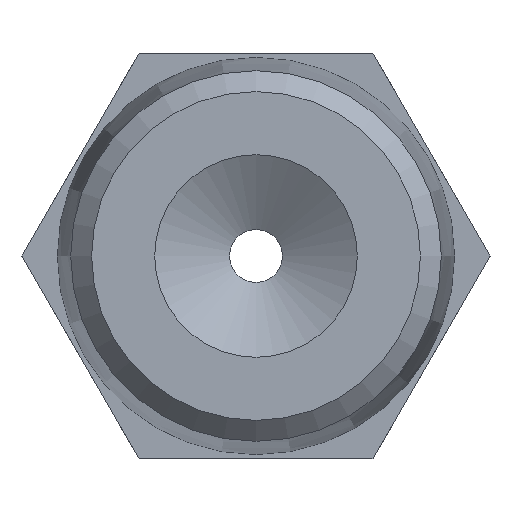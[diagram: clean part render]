
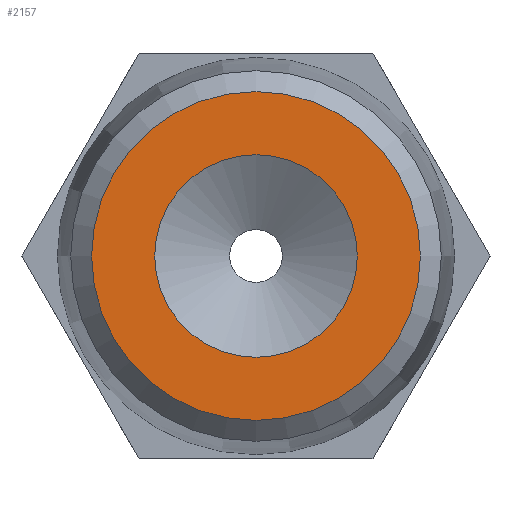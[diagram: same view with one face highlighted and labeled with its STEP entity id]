
A CAD part, front view. The second image highlights one B-rep face of the part: STEP entity #2157.
In plain terms, the highlighted planar face has unit normal (0, -1, 0).
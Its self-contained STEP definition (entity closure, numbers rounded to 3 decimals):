
#143=CARTESIAN_POINT('',(2.5,0.,0.0));
#144=VERTEX_POINT('',#143);
#145=CARTESIAN_POINT('',(0.,0.,0.0));
#146=DIRECTION('',(0.0,1.0,0.0));
#147=DIRECTION('',(1.0,0.0,0.0));
#148=AXIS2_PLACEMENT_3D('',#145,#146,#147);
#149=CIRCLE('',#148,2.5);
#150=EDGE_CURVE('',#144,#144,#149,.T.);
#2131=CARTESIAN_POINT('',(4.056,0.0,0.0));
#2132=VERTEX_POINT('',#2131);
#2133=CARTESIAN_POINT('',(0.,0.,0.0));
#2134=DIRECTION('',(0.0,-1.0,0.0));
#2135=DIRECTION('',(1.0,0.0,0.0));
#2136=AXIS2_PLACEMENT_3D('',#2133,#2134,#2135);
#2137=CIRCLE('',#2136,4.056);
#2138=EDGE_CURVE('',#2132,#2132,#2137,.T.);
#2146=CARTESIAN_POINT('',(2.028,0.0,0.0));
#2147=DIRECTION('',(0.0,-1.0,0.0));
#2148=DIRECTION('',(0.0,0.0,-1.0));
#2149=AXIS2_PLACEMENT_3D('',#2146,#2147,#2148);
#2150=PLANE('',#2149);
#2151=ORIENTED_EDGE('',*,*,#2138,.T.);
#2152=EDGE_LOOP('',(#2151));
#2153=FACE_OUTER_BOUND('',#2152,.T.);
#2154=ORIENTED_EDGE('',*,*,#150,.T.);
#2155=EDGE_LOOP('',(#2154));
#2156=FACE_BOUND('',#2155,.T.);
#2157=ADVANCED_FACE('',(#2153,#2156),#2150,.T.);
